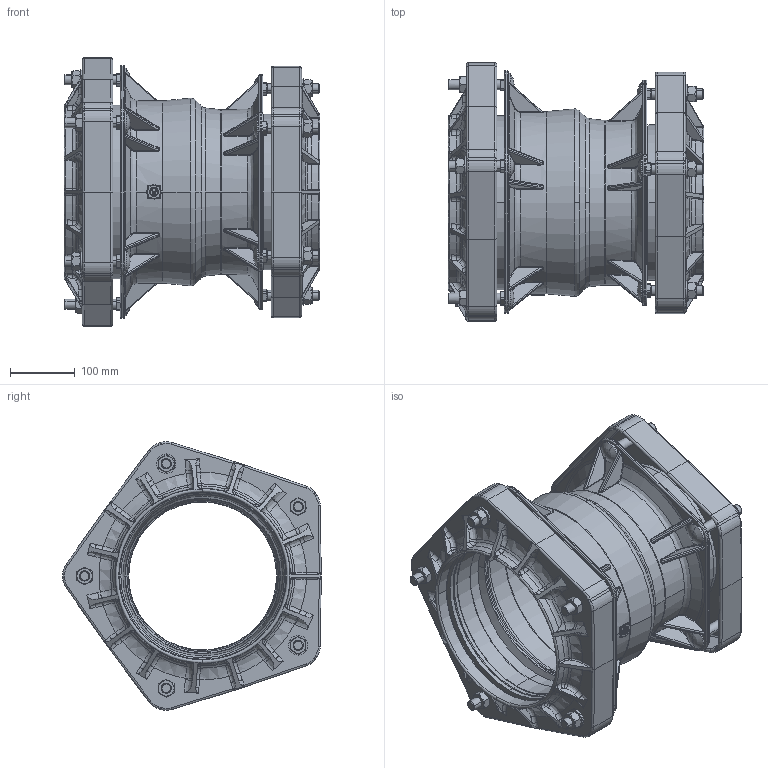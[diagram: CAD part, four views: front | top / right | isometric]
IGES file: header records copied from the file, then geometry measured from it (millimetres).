
Global section: file name: No Iges File Name specified; native system: AutoDesk Inventor R12.0; preprocessor: AutoDesk Inventor Iges Exporter R12.0; date: 20120503.111926; units: millimetre
Bounding box: 394.58 x 398.7 x 414.55 mm (x, y, z)
Volume: 4593655.5 mm3; surface area: 1391256.4 mm2
Topology: 1 solids, 5 shells, 2616 faces, 6744 edges, 4182 vertices
Faces by surface type: bspline 834, plane 671, revolution 398, cylinder 334, cone 249, torus 130
